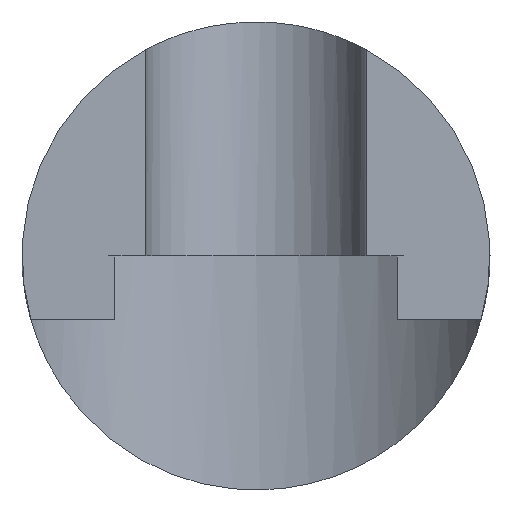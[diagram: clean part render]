
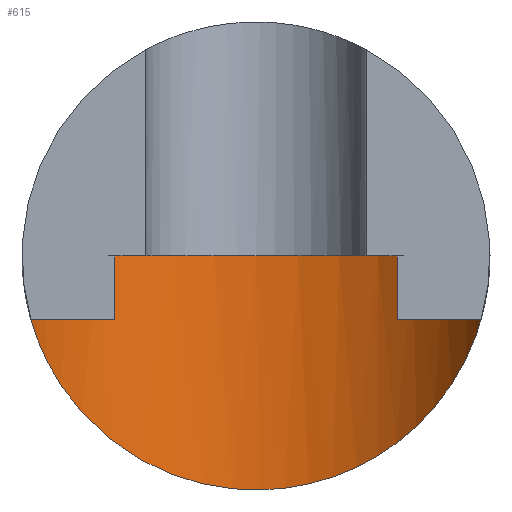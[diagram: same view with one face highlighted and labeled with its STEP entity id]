
A CAD part, front view. The second image highlights one B-rep face of the part: STEP entity #615.
In plain terms, the highlighted cylindrical face has radius 6 mm (diameter 12 mm), a partial arc.
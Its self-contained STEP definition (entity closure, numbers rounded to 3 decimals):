
#163=CARTESIAN_POINT('',(-5.5,-7.602,0.));
#164=CARTESIAN_POINT('',(-5.5,-7.602,-0.133));
#165=CARTESIAN_POINT('',(-5.49,-7.58,
-0.397));
#166=CARTESIAN_POINT('',(-5.448,-7.485,
-0.788));
#167=CARTESIAN_POINT('',(-5.381,-7.344,
-1.158));
#168=CARTESIAN_POINT('',(-5.294,-7.174,
-1.504));
#169=CARTESIAN_POINT('',(-5.19,-6.987,
-1.83));
#170=CARTESIAN_POINT('',(-5.068,-6.784,
-2.147));
#171=CARTESIAN_POINT('',(-4.925,-6.569,
-2.457));
#172=CARTESIAN_POINT('',(-4.768,-6.355,
-2.748));
#173=CARTESIAN_POINT('',(-4.593,-6.135,
-3.032));
#174=CARTESIAN_POINT('',(-4.381,-5.895,
-3.333));
#175=CARTESIAN_POINT('',(-4.114,-5.626,
-3.66));
#176=CARTESIAN_POINT('',(-3.782,-5.334,
-4.003));
#177=CARTESIAN_POINT('',(-3.378,-5.031,
-4.353));
#178=CARTESIAN_POINT('',(-2.883,-4.726,
-4.698));
#179=CARTESIAN_POINT('',(-2.302,-4.446,
-5.01));
#180=CARTESIAN_POINT('',(-1.658,-4.22,
-5.259));
#181=CARTESIAN_POINT('',(-0.994,-4.07,
-5.424));
#182=CARTESIAN_POINT('',(-0.327,-3.997,
-5.504));
#183=CARTESIAN_POINT('',(0.332,-3.997,
-5.503));
#184=CARTESIAN_POINT('',(0.999,-4.071,
-5.423));
#185=CARTESIAN_POINT('',(1.662,-4.221,-5.258));
#186=CARTESIAN_POINT('',(2.307,-4.448,-5.008));
#187=CARTESIAN_POINT('',(2.887,-4.728,-4.696));
#188=CARTESIAN_POINT('',(3.381,-5.033,-4.35));
#189=CARTESIAN_POINT('',(3.785,-5.337,-4.001));
#190=CARTESIAN_POINT('',(4.116,-5.628,-3.658));
#191=CARTESIAN_POINT('',(4.382,-5.897,-3.331));
#192=CARTESIAN_POINT('',(4.593,-6.136,-3.032));
#193=CARTESIAN_POINT('',(4.768,-6.354,-2.748));
#194=CARTESIAN_POINT('',(4.924,-6.568,-2.458));
#195=CARTESIAN_POINT('',(5.068,-6.785,-2.146));
#196=CARTESIAN_POINT('',(5.192,-6.99,-1.825));
#197=CARTESIAN_POINT('',(5.296,-7.178,-1.497));
#198=CARTESIAN_POINT('',(5.382,-7.347,-1.15));
#199=CARTESIAN_POINT('',(5.448,-7.486,
-0.783));
#200=CARTESIAN_POINT('',(5.49,-7.58,
-0.396));
#201=CARTESIAN_POINT('',(5.5,-7.602,-0.133));
#202=CARTESIAN_POINT('',(5.5,-7.602,0.));
#258=CARTESIAN_POINT('',(0.,-10.,0.));
#259=DIRECTION('',(0.,0.,-1.));
#260=DIRECTION('',(-0.917,0.4,0.));
#261=AXIS2_PLACEMENT_3D('',#258,#259,#260);
#438=CARTESIAN_POINT('',(5.5,-7.602,0.));
#440=VERTEX_POINT('',#438);
#442=CARTESIAN_POINT('',(-5.5,-7.602,0.));
#444=VERTEX_POINT('',#442);
#605=CARTESIAN_POINT('',(0.,-10.,0.));
#606=DIRECTION('',(0.,0.,-1.));
#607=DIRECTION('',(1.,0.,0.));
#608=AXIS2_PLACEMENT_3D('',#605,#606,#607);
#609=CYLINDRICAL_SURFACE('',#608,6.);
#610=ORIENTED_EDGE('',*,*,#597,.F.);
#612=ORIENTED_EDGE('',*,*,#611,.T.);
#613=EDGE_LOOP('',(#610,#612));
#614=FACE_OUTER_BOUND('',#613,.F.);
#615=ADVANCED_FACE('',(#614),#609,.F.);
#203=B_SPLINE_CURVE_WITH_KNOTS('',3,(#163,#164,#165,#166,#167,#168,#169,#170,
#171,#172,#173,#174,#175,#176,#177,#178,#179,#180,#181,#182,#183,#184,#185,#186,
#187,#188,#189,#190,#191,#192,#193,#194,#195,#196,#197,#198,#199,#200,#201,
#202),.UNSPECIFIED.,.F.,.F.,(4,1,1,1,1,1,1,1,1,1,1,1,1,1,1,1,1,1,1,1,1,1,1,1,1,
1,1,1,1,1,1,1,1,1,1,1,1,4),(0.,0.027,0.054,
0.081,0.108,0.135,0.162,
0.189,0.216,0.243,0.27,
0.297,0.324,0.351,0.378,
0.405,0.432,0.459,0.486,
0.514,0.541,0.568,0.595,
0.622,0.649,0.676,0.703,
0.73,0.757,0.784,0.811,
0.838,0.865,0.892,0.919,
0.946,0.973,1.),.UNSPECIFIED.);
#262=CIRCLE('',#261,6.);
#597=EDGE_CURVE('',#444,#440,#203,.T.);
#611=EDGE_CURVE('',#444,#440,#262,.T.);
